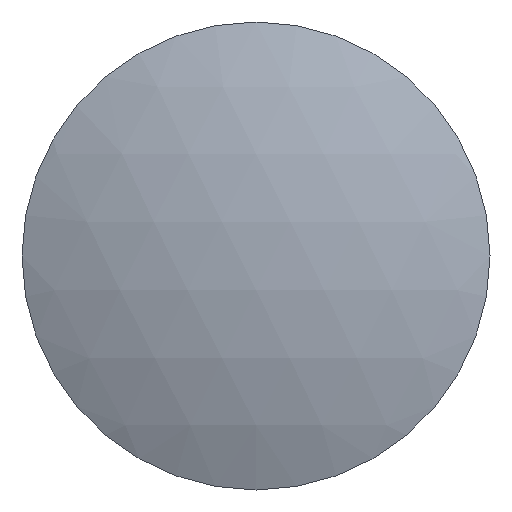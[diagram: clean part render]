
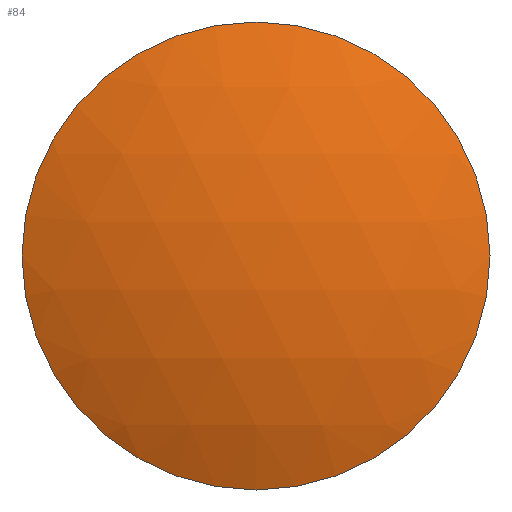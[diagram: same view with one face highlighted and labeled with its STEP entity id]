
A CAD part, front view. The second image highlights one B-rep face of the part: STEP entity #84.
In plain terms, the highlighted spherical face has radius 51.9 mm.
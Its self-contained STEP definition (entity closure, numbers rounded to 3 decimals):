
#68=CARTESIAN_POINT('',(0.0,45.9,0.0));
#69=DIRECTION('',(0.0,0.0,1.0));
#70=DIRECTION('',(1.0,0.0,0.0));
#71=AXIS2_PLACEMENT_3D('',#68,#69,#70);
#72=SPHERICAL_SURFACE('',#71,51.9);
#73=CARTESIAN_POINT('',(-20.,-1.992,0.0));
#74=VERTEX_POINT('',#73);
#75=CARTESIAN_POINT('',(0.0,-1.992,0.0));
#76=DIRECTION('',(0.0,1.0,0.0));
#77=DIRECTION('',(-1.0,0.0,0.0));
#78=AXIS2_PLACEMENT_3D('',#75,#76,#77);
#79=CIRCLE('',#78,20.);
#80=EDGE_CURVE('',#74,#74,#79,.T.);
#81=ORIENTED_EDGE('',*,*,#80,.F.);
#82=EDGE_LOOP('',(#81));
#83=FACE_OUTER_BOUND('',#82,.T.);
#84=ADVANCED_FACE('',(#83),#72,.T.);
